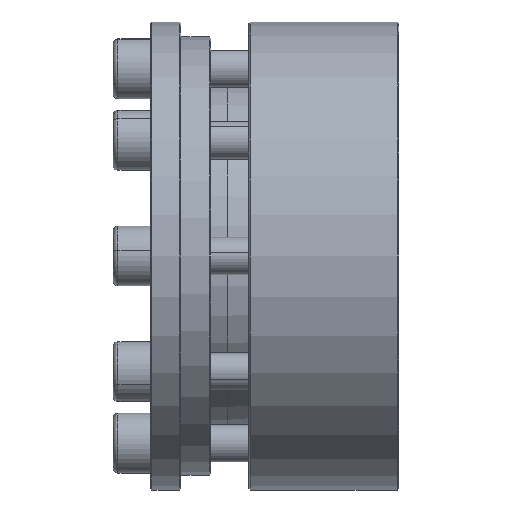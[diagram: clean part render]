
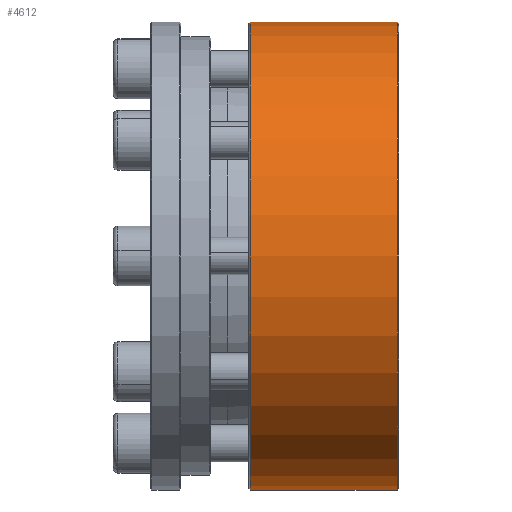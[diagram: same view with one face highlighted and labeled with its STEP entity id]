
A CAD part, front view. The second image highlights one B-rep face of the part: STEP entity #4612.
In plain terms, the highlighted cylindrical face has radius 62.44 mm (diameter 124.88 mm), a partial arc.
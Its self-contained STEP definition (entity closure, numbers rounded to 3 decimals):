
#275 = CARTESIAN_POINT ( 'NONE',  ( -79.581, 26.04, -62.44 ) ) ;
#530 = VECTOR ( 'NONE', #6706, 1000. ) ;
#614 = EDGE_CURVE ( 'NONE', #3004, #3674, #2020, .T. ) ;
#824 = EDGE_CURVE ( 'NONE', #7978, #3004, #2144, .T. ) ;
#1018 = LINE ( 'NONE', #275, #530 ) ;
#1200 = CARTESIAN_POINT ( 'NONE',  ( -79.581, 26.04, 0. ) ) ;
#1362 = EDGE_CURVE ( 'NONE', #3674, #7362, #8837, .T. ) ;
#2020 = LINE ( 'NONE', #7016, #4036 ) ;
#2053 = ORIENTED_EDGE ( 'NONE', *, *, #1362, .T. ) ;
#2144 = CIRCLE ( 'NONE', #8581, 62.44 ) ;
#2265 = ORIENTED_EDGE ( 'NONE', *, *, #4394, .F. ) ;
#2486 = CARTESIAN_POINT ( 'NONE',  ( -39.981, 26.04, 62.44 ) ) ;
#2785 = DIRECTION ( 'NONE',  ( 0., 0., 1. ) ) ;
#3004 = VERTEX_POINT ( 'NONE', #2486 ) ;
#3642 = DIRECTION ( 'NONE',  ( 1., 0., 0. ) ) ;
#3674 = VERTEX_POINT ( 'NONE', #5338 ) ;
#3752 = AXIS2_PLACEMENT_3D ( 'NONE', #1200, #6140, #2785 ) ;
#4036 = VECTOR ( 'NONE', #5290, 1000. ) ;
#4394 = EDGE_CURVE ( 'NONE', #7978, #7362, #1018, .T. ) ;
#4498 = CARTESIAN_POINT ( 'NONE',  ( -79.181, 26.04, 0. ) ) ;
#4612 = ADVANCED_FACE ( 'NONE', ( #6834 ), #6000, .T. ) ;
#5290 = DIRECTION ( 'NONE',  ( -1., 0., 0. ) ) ;
#5338 = CARTESIAN_POINT ( 'NONE',  ( -79.181, 26.04, 62.44 ) ) ;
#5465 = AXIS2_PLACEMENT_3D ( 'NONE', #4498, #3642, #6871 ) ;
#5583 = ORIENTED_EDGE ( 'NONE', *, *, #824, .T. ) ;
#5896 = CARTESIAN_POINT ( 'NONE',  ( -79.181, 26.04, -62.44 ) ) ;
#6000 = CYLINDRICAL_SURFACE ( 'NONE', #3752, 62.44 ) ;
#6140 = DIRECTION ( 'NONE',  ( -1., 0., 0. ) ) ;
#6706 = DIRECTION ( 'NONE',  ( -1., 0., 0. ) ) ;
#6834 = FACE_OUTER_BOUND ( 'NONE', #9598, .T. ) ;
#6871 = DIRECTION ( 'NONE',  ( 0., 0., -1. ) ) ;
#7016 = CARTESIAN_POINT ( 'NONE',  ( -79.581, 26.04, 62.44 ) ) ;
#7362 = VERTEX_POINT ( 'NONE', #5896 ) ;
#7978 = VERTEX_POINT ( 'NONE', #8121 ) ;
#8121 = CARTESIAN_POINT ( 'NONE',  ( -39.981, 26.04, -62.44 ) ) ;
#8224 = DIRECTION ( 'NONE',  ( -1., 0., 0. ) ) ;
#8581 = AXIS2_PLACEMENT_3D ( 'NONE', #9778, #8224, #9086 ) ;
#8659 = ORIENTED_EDGE ( 'NONE', *, *, #614, .T. ) ;
#8837 = CIRCLE ( 'NONE', #5465, 62.44 ) ;
#9086 = DIRECTION ( 'NONE',  ( 0., 0., 1. ) ) ;
#9598 = EDGE_LOOP ( 'NONE', ( #2265, #5583, #8659, #2053 ) ) ;
#9778 = CARTESIAN_POINT ( 'NONE',  ( -39.981, 26.04, 0. ) ) ;
